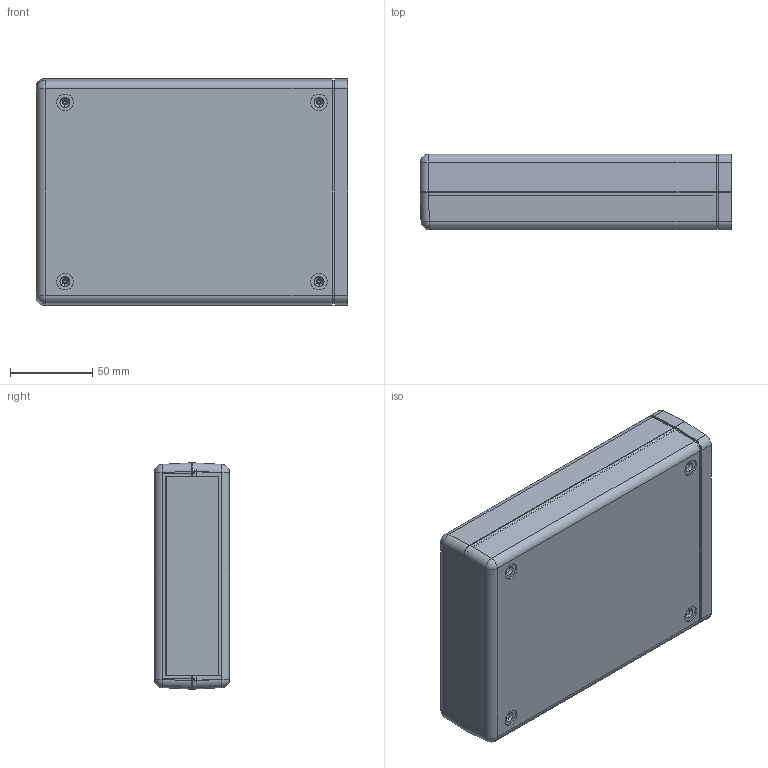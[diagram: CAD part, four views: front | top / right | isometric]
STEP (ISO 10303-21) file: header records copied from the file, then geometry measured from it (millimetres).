
FILE_DESCRIPTION (( 'STEP AP214' ), '1' );
FILE_NAME ('UOOL-110.STEP', '2020-05-22T22:44:24', ( 'Rudy' ), ( '' ), 'SwSTEP 2.0', 'SolidWorks 2014', '' );
FILE_SCHEMA (( 'AUTOMOTIVE_DESIGN' ));
Length unit declared in the file: inch
Products named in the file (4): UOOL 110 PANEL; UOOL-top; UOOL-bottom; UOOL-110
Assembly tree (4 placements, depth 2):
  UOOL-110
    UOOL-bottom
    UOOL-top
    UOOL 110 PANEL  x2
Bounding box: 189.84 x 45.72 x 137.79 mm (x, y, z)
Volume: 244223.2 mm3; surface area: 173127.6 mm2
Topology: 4 solids, 4 shells, 1113 faces, 2905 edges, 1836 vertices
Faces by surface type: cylinder 453, plane 426, torus 122, bspline 64, cone 44, sphere 4
Entity records: 35381 total; most frequent: CARTESIAN_POINT 8028, DIRECTION 5781, ORIENTED_EDGE 5778, EDGE_CURVE 2889, AXIS2_PLACEMENT_3D 2103, VERTEX_POINT 1828, LINE 1575, VECTOR 1575
